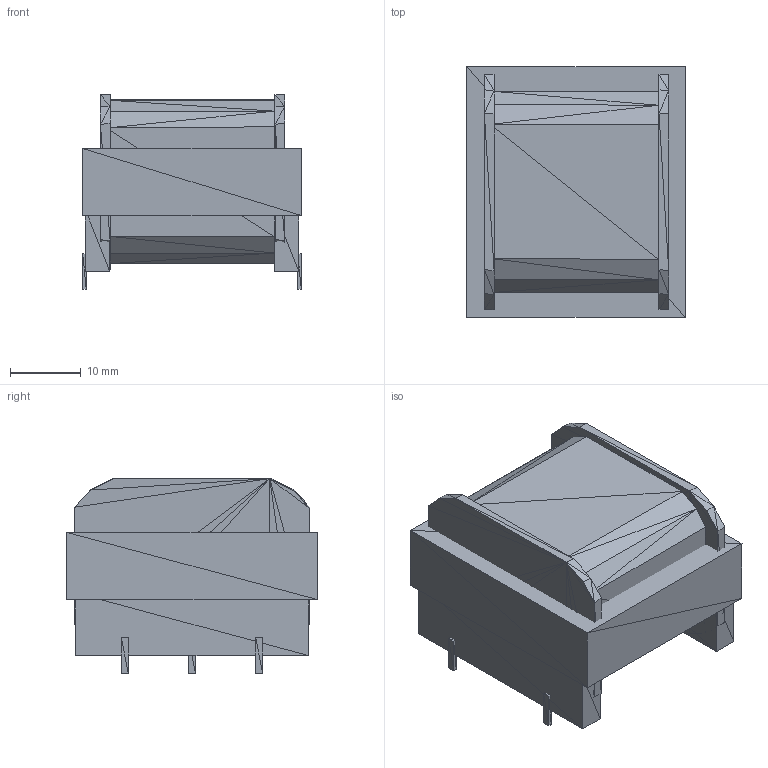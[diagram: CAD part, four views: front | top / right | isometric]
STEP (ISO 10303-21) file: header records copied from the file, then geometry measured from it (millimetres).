
FILE_DESCRIPTION(('HOOPS Exchange Step'),'2;1');
FILE_NAME('***.stp');
FILE_SCHEMA( ('AP242_MANAGED_MODEL_BASED_3D_ENGINEERING_MIM_LF {1 0 10303 442 1 1 4 }') );
Length unit declared in the file: inch
Products named in the file (12): XFRMCTPCB_2; XFRMCTPCB_3; XFRMCTPCB_4; XFRMCTPCB_5; XFRMCTPCB_6; XFRMCTPCB_7; XFRMCTPCB_8; XFRMCTPCB_9; XFRMCTPCB_10; XFRMCTPCB_11; XFRMCTPCB_12; XFRMCTPCB
Assembly tree (11 placements, depth 2):
  XFRMCTPCB
    XFRMCTPCB_2
    XFRMCTPCB_3
    XFRMCTPCB_4
    XFRMCTPCB_5
    XFRMCTPCB_6
    XFRMCTPCB_7
    XFRMCTPCB_8
    XFRMCTPCB_9
    XFRMCTPCB_10
    XFRMCTPCB_11
    XFRMCTPCB_12
Bounding box: 30.99 x 35.56 x 27.64 mm (x, y, z)
Volume: 29829.6 mm3; surface area: 12267.5 mm2
Topology: 11 solids, 11 shells, 228 faces, 342 edges, 136 vertices
Faces by surface type: plane 228
Entity records: 5008 total; most frequent: DIRECTION 846, CARTESIAN_POINT 730, ORIENTED_EDGE 684, VECTOR 342, LINE 342, EDGE_CURVE 342, AXIS2_PLACEMENT_3D 252, PLANE 228
